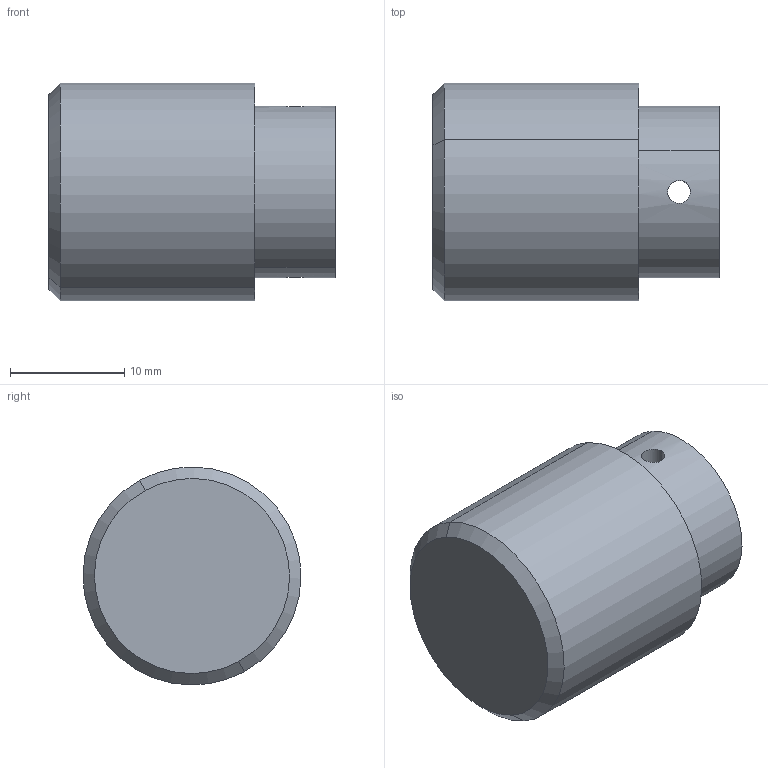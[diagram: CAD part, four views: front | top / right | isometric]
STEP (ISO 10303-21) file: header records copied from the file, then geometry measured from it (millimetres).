
FILE_DESCRIPTION(('CATIA V5 STEP Exchange','CAx-IF Rec.Pracs.--- Model Styling and Organization---1.4--- 2014-01-23','CAx-IF Rec.Pracs.---3D Tessellated Data Validation Properties---0.5---2014-09-14'),'2;1');
FILE_NAME('D:\GrabCAD\I+D\SERIE_LEXA\EKOT-1360-170921A-LEXA_WAIST_SUPPORT\FAB\FAB_C\PDF\MAQUINADO\1360.000.014.000.PERILLA.stp','2024-11-01T00:04:36+00:00',('none'),('none'),'CATIA Version 5-6 Release 2018 SP6','CATIA V5 STEP AP242','none');
FILE_SCHEMA(('AP242_MANAGED_MODEL_BASED_3D_ENGINEERING_MIM_LF {1 0 10303 442 1 1 4}'));
Length unit declared in the file: millimetre
Products named in the file (1): 1360.000.014.000.PERILLA
Bounding box: 25 x 19.04 x 19.04 mm (x, y, z)
Volume: 6169.5 mm3; surface area: 2101.8 mm2
Topology: 1 solids, 1 shells, 16 faces, 34 edges, 22 vertices
Faces by surface type: cylinder 10, plane 4, cone 2
Entity records: 499 total; most frequent: CARTESIAN_POINT 154, ORIENTED_EDGE 68, DIRECTION 44, EDGE_CURVE 34, AXIS2_PLACEMENT_3D 24, EDGE_LOOP 22, VERTEX_POINT 22, ADVANCED_FACE 16
